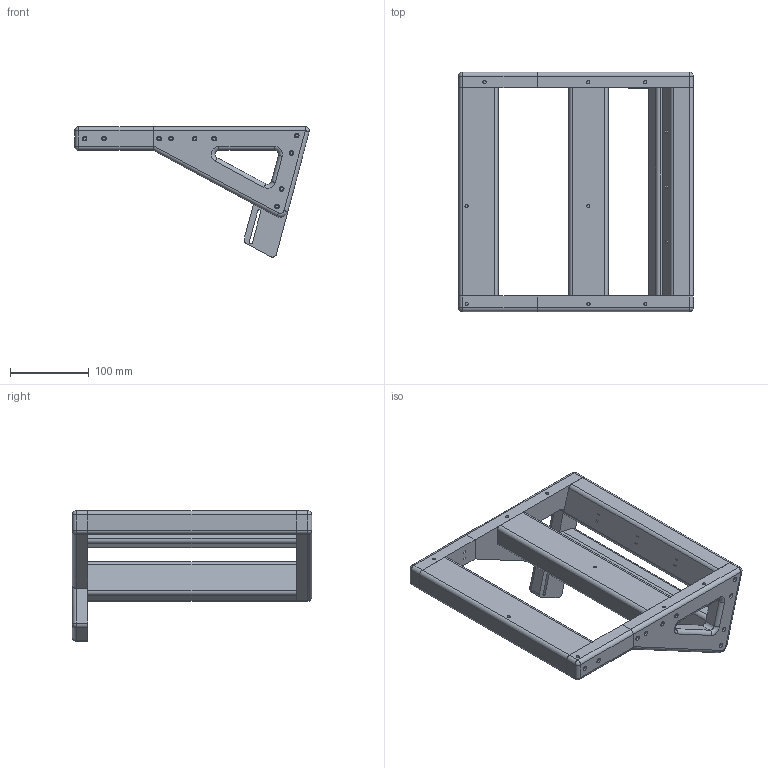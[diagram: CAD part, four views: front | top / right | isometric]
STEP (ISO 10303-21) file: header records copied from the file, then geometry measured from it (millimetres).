
FILE_DESCRIPTION(/* description */ (''),/* implementation_level */ '2;1');
FILE_NAME(/* name */ 'ATX Open PC Frame.step',/* time_stamp */ '2023-06-14T16:00:18+02:00',/* author */ (''),/* organization */ (''),/* preprocessor_version */ 'ST-DEVELOPER v19.2',/* originating_system */ 'Autodesk Translation Framework v12.6.0.85',/* authorisation */ '');
FILE_SCHEMA (('AUTOMOTIVE_DESIGN { 1 0 10303 214 3 1 1 }'));
Length unit declared in the file: millimetre
Products named in the file (1): Open PC Frame
Bounding box: 298.47 x 304.8 x 165.91 mm (x, y, z)
Volume: 2126005.5 mm3; surface area: 287308.1 mm2
Topology: 8 solids, 8 shells, 310 faces, 672 edges, 435 vertices
Faces by surface type: plane 150, cylinder 145, sphere 8, torus 6, bspline 1
Full cylindrical faces by diameter (mm): 4 x54, 6 x20
Entity records: 8697 total; most frequent: DIRECTION 1588, CARTESIAN_POINT 1452, ORIENTED_EDGE 1344, EDGE_CURVE 672, AXIS2_PLACEMENT_3D 607, VERTEX_POINT 435, EDGE_LOOP 431, LINE 374
